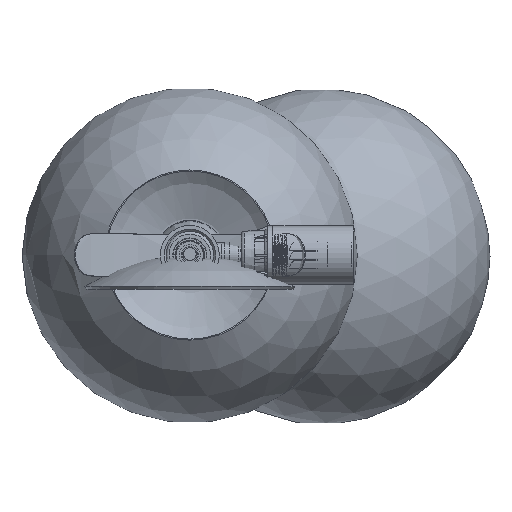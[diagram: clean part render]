
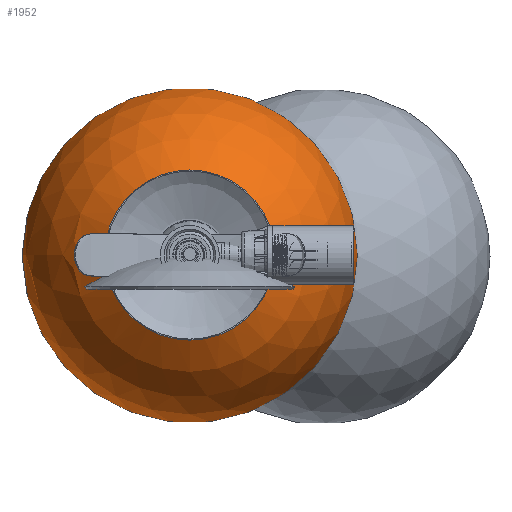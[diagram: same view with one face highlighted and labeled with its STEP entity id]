
A CAD part, top view. The second image highlights one B-rep face of the part: STEP entity #1952.
In plain terms, the highlighted spherical face has radius 80 mm.
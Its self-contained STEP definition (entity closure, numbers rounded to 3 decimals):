
#1952 = ADVANCED_FACE( '', ( #3364 ), #3365, .T. );
#3364 = FACE_OUTER_BOUND( '', #4709, .T. );
#3365 = SPHERICAL_SURFACE( '', #4710, 80. );
#4709 = EDGE_LOOP( '', ( #9077 ) );
#4710 = AXIS2_PLACEMENT_3D( '', #9078, #9079, #9080 );
#9077 = ORIENTED_EDGE( '', *, *, #10944, .T. );
#9078 = CARTESIAN_POINT( '', ( 0., 0., -80. ) );
#9079 = DIRECTION( '', ( 0., 0., -1. ) );
#9080 = DIRECTION( '', ( -1., 0., 0. ) );
#10944 = EDGE_CURVE( '', #12410, #12410, #12411, .F. );
#12410 = VERTEX_POINT( '', #14814 );
#12411 = CIRCLE( '', #14815, 40.485 );
#14814 = CARTESIAN_POINT( '', ( 40.485, 0., -11. ) );
#14815 = AXIS2_PLACEMENT_3D( '', #16709, #16710, #16711 );
#16709 = CARTESIAN_POINT( '', ( 0., 0., -11. ) );
#16710 = DIRECTION( '', ( 0., 0., 1. ) );
#16711 = DIRECTION( '', ( 1., 0., 0. ) );
